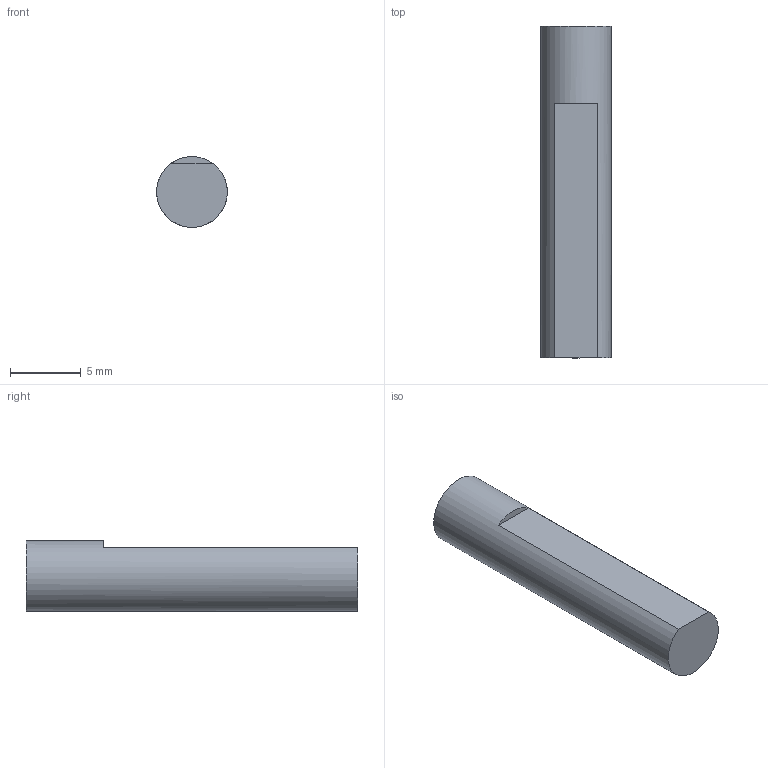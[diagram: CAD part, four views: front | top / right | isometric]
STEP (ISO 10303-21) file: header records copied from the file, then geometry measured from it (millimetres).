
FILE_DESCRIPTION(/* description */ ('STEP AP242','CAx-IF Rec.Pracs.---Representation and Presentation of Product Manufacturing Information (PMI)---4.0---2014-10-13','CAx-IF Rec.Pracs.---3D Tessellated Geometry---0.4---2014-09-14','2;1'),/* implementation_level */ '2;1');
FILE_NAME(/* name */ 'Arm Assembly - Nima 17 40x42x5mm (11)',/* time_stamp */ '2025-06-20T22:34:11Z',/* author */ (''),/* organization */ (''),/* preprocessor_version */ 'ST-DEVELOPER v20',/* originating_system */ 'ONSHAPE BY PTC INC, 1.199',/* authorisation */ ' ');
FILE_SCHEMA (('AP242_MANAGED_MODEL_BASED_3D_ENGINEERING_MIM_LF { 1 0 10303 442 1 1 4 }'));
Length unit declared in the file: metre
Products named in the file (1): Nima 17 40x42x5mm
Bounding box: 4.99 x 23.45 x 5 mm (x, y, z)
Volume: 442 mm3; surface area: 403.7 mm2
Topology: 1 solids, 1 shells, 5 faces, 9 edges, 6 vertices
Faces by surface type: plane 4, cylinder 1
Full cylindrical faces by diameter (mm): 5 x1
Entity records: 134 total; most frequent: DIRECTION 22, CARTESIAN_POINT 18, ORIENTED_EDGE 14, AXIS2_PLACEMENT_3D 9, EDGE_CURVE 7, EDGE_LOOP 6, FACE_BOUND 6, VERTEX_POINT 5
